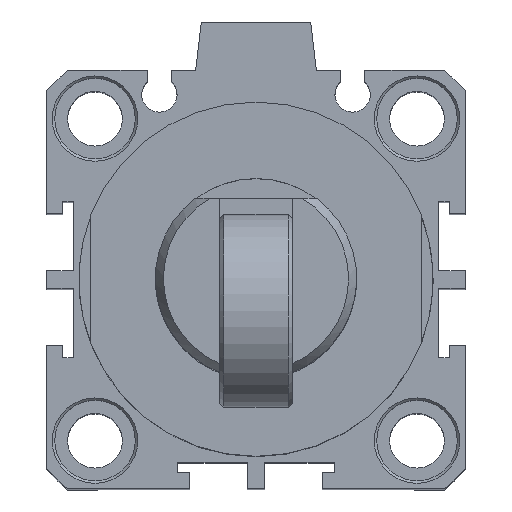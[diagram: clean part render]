
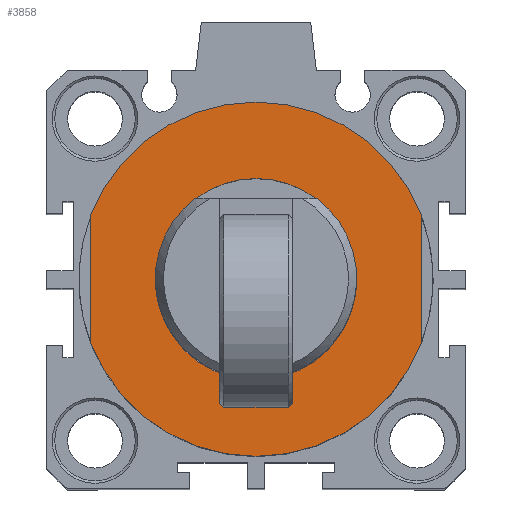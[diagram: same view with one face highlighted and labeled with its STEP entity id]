
A CAD part, top view. The second image highlights one B-rep face of the part: STEP entity #3858.
In plain terms, the highlighted planar face has unit normal (0, 0, 1).
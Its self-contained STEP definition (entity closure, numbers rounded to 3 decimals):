
#327=CARTESIAN_POINT('',(-6.902,11.555,105.2));
#328=VERTEX_POINT('',#327);
#335=CARTESIAN_POINT('',(8.098,11.555,105.2));
#336=VERTEX_POINT('',#335);
#337=CARTESIAN_POINT('',(0.598,1.555,105.2));
#338=DIRECTION('',(0.0,0.0,-1.0));
#339=DIRECTION('',(0.0,1.0,0.0));
#340=AXIS2_PLACEMENT_3D('',#337,#338,#339);
#341=CIRCLE('',#340,12.5);
#342=EDGE_CURVE('',#336,#328,#341,.T.);
#2814=CARTESIAN_POINT('',(21.098,-6.429,105.2));
#2815=VERTEX_POINT('',#2814);
#2822=CARTESIAN_POINT('',(-19.902,-6.429,105.2));
#2823=VERTEX_POINT('',#2822);
#2824=CARTESIAN_POINT('',(0.598,1.555,105.2));
#2825=DIRECTION('',(0.0,0.0,-1.0));
#2826=DIRECTION('',(0.0,1.0,0.0));
#2827=AXIS2_PLACEMENT_3D('',#2824,#2825,#2826);
#2828=CIRCLE('',#2827,22.);
#2829=EDGE_CURVE('',#2815,#2823,#2828,.T.);
#2848=CARTESIAN_POINT('',(-19.902,9.539,105.2));
#2849=VERTEX_POINT('',#2848);
#2856=CARTESIAN_POINT('',(21.098,9.539,105.2));
#2857=VERTEX_POINT('',#2856);
#2858=CARTESIAN_POINT('',(0.598,1.555,105.2));
#2859=DIRECTION('',(0.0,0.0,-1.0));
#2860=DIRECTION('',(0.0,1.0,0.0));
#2861=AXIS2_PLACEMENT_3D('',#2858,#2859,#2860);
#2862=CIRCLE('',#2861,22.);
#2863=EDGE_CURVE('',#2849,#2857,#2862,.T.);
#3827=CARTESIAN_POINT('',(0.598,18.805,105.2));
#3828=DIRECTION('',(0.0,0.0,1.0));
#3829=DIRECTION('',(1.0,0.0,0.0));
#3830=AXIS2_PLACEMENT_3D('',#3827,#3828,#3829);
#3831=PLANE('',#3830);
#3832=CARTESIAN_POINT('',(21.098,-6.429,105.2));
#3833=DIRECTION('',(0.0,1.0,0.0));
#3834=VECTOR('',#3833,15.969);
#3835=LINE('',#3832,#3834);
#3836=EDGE_CURVE('',#2815,#2857,#3835,.T.);
#3837=ORIENTED_EDGE('',*,*,#3836,.T.);
#3838=ORIENTED_EDGE('',*,*,#2863,.F.);
#3839=CARTESIAN_POINT('',(-19.902,9.539,105.2));
#3840=DIRECTION('',(0.0,-1.0,0.0));
#3841=VECTOR('',#3840,15.969);
#3842=LINE('',#3839,#3841);
#3843=EDGE_CURVE('',#2849,#2823,#3842,.T.);
#3844=ORIENTED_EDGE('',*,*,#3843,.T.);
#3845=ORIENTED_EDGE('',*,*,#2829,.F.);
#3846=EDGE_LOOP('',(#3837,#3838,#3844,#3845));
#3847=FACE_OUTER_BOUND('',#3846,.T.);
#3848=CARTESIAN_POINT('',(0.598,1.555,105.2));
#3849=DIRECTION('',(0.0,0.0,-1.0));
#3850=DIRECTION('',(0.0,1.0,0.0));
#3851=AXIS2_PLACEMENT_3D('',#3848,#3849,#3850);
#3852=CIRCLE('',#3851,12.5);
#3853=EDGE_CURVE('',#328,#336,#3852,.T.);
#3854=ORIENTED_EDGE('',*,*,#3853,.T.);
#3855=ORIENTED_EDGE('',*,*,#342,.T.);
#3856=EDGE_LOOP('',(#3854,#3855));
#3857=FACE_BOUND('',#3856,.T.);
#3858=ADVANCED_FACE('',(#3847,#3857),#3831,.T.);
